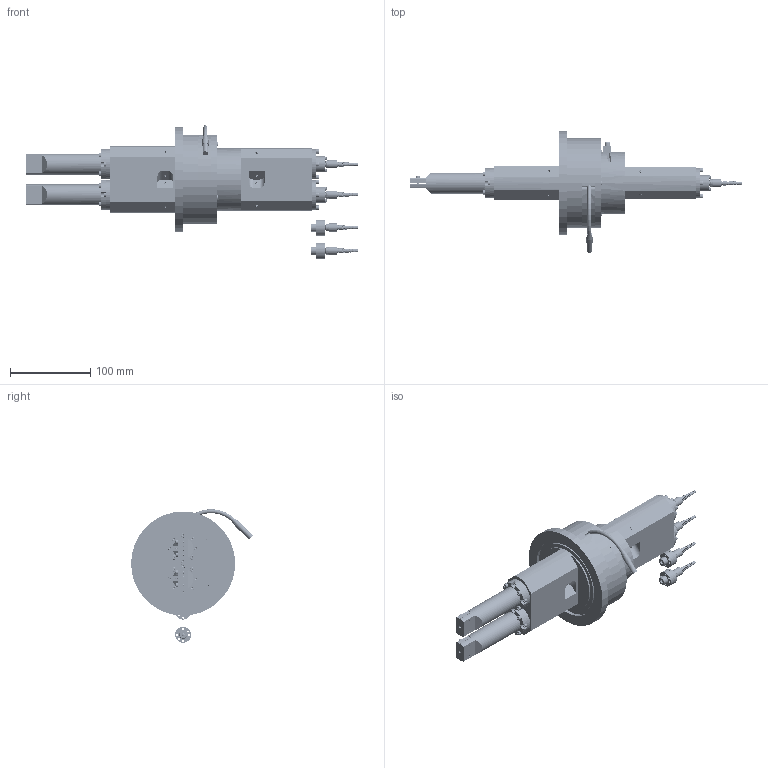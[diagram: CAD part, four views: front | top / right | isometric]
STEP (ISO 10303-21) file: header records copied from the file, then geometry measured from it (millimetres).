
FILE_DESCRIPTION (( 'STEP AP203' ), '1' );
FILE_NAME ('00.234.02-010.STEP', '2010-12-06T07:42:53', ( 'ladmin' ), ( '' ), 'SwSTEP 2.0', 'SolidWorks 2010', '' );
FILE_SCHEMA (( 'CONFIG_CONTROL_DESIGN' ));
Products named in the file (44): 00.234.02-010; 00.234.02-040_01; 00.234.02-030_01; 00.234.02-060_01; 00.234.02-050_01; 00.234.02-080_01; 00.234.02-900_01; 00.234.02-500_01; 00.234.02-510_01; 00.234.02-150_01; 00.234.02-090_01; D_1924_01; 00.234.02-110_01; 00.234.02-120_01; 00.234.02-070_01; D_2065_01; D_2066_01; D_2067_01; NS45B Dumb (STD)_01; 00.234.02-100_01; 00.234.02-520_01; 00.234.02-130_01; 00.234.02-140_01; 00.234.02-160_01; O-Ring 60x3.0_01; Zyl-Stift h6 BN 858_2 x 16; Lins-Schr I-6kt BN 1593_M 3 x 8; Zyl-Schr I-6kt BN 611_M 3 x 25; Zyl-Stift m6 BN 857_4 x 10; Zyl-Schr I-6kt BN 610_M 3 x 8; Zyl-Schr I-6kt BN 610_M 3 x 12; Zyl-Schr I-6kt BN 610_PreviewCfg; Zyl-Schr I-6kt BN 610_M 4 x 20; Zyl-Schr I-6kt BN 610_M 2 x 12; Zyl-Schr I-6kt BN 610_M 5 x 12; Zyl-Schr I-6kt BN 612_M 2,5 x 14; Zyl-Schr I-6kt BN 610_M 2,5 x 10; Gew Stift I-6kt Kegelk BN 617_M 3 x 10
Assembly tree (141 placements, depth 3):
  00.234.02-010
    00.234.02-050_01
    00.234.02-150_01  x2
    00.234.02-140_01  x2
    Zyl-Schr I-6kt BN 610_M 2,5 x 10  x8
    Zyl-Schr I-6kt BN 610_M 3 x 8  x7
    Zyl-Schr I-6kt BN 610_PreviewCfg  x25
    Zyl-Schr I-6kt BN 612_M 2,5 x 14  x8
    00.234.02-900_01  x6
      00.234.02-500_01
      00.234.02-510_01
    00.234.02-060_01
    00.234.02-100_01
    Gew Stift I-6kt Kegelk BN 617_M 3 x 10  x16
    Zyl-Stift h6 BN 858_2 x 16  x8
    Zyl-Schr I-6kt BN 610_M 3 x 12  x4
    Zyl-Schr I-6kt BN 610_M 5 x 12  x6
    00.234.02-030_01
    D_1924_01  x6
    00.234.02-090_01  x4
    Zyl-Stift m6 BN 857_4 x 10
    00.234.02-520_01  x2
    00.234.02-040_01
    00.234.02-080_01  x2
    Zyl-Schr I-6kt BN 611_M 3 x 25  x4
    00.234.02-060_01
    00.234.02-110_01
    00.234.02-130_01
    Zyl-Schr I-6kt BN 610_M 2 x 12  x3
    00.234.02-120_01
    D_2065_01
      D_2066_01
      D_2067_01
      NS45B Dumb (STD)_01
    O-Ring 60x3.0_01
    00.234.02-050_01
    00.234.02-060_01
    00.234.02-060_01
    00.234.02-070_01
    00.234.02-050_01
    Lins-Schr I-6kt BN 1593_M 3 x 8  x3
    00.234.02-160_01
    Zyl-Schr I-6kt BN 610_M 4 x 20
    00.234.02-050_01
Bounding box: 414.81 x 152.16 x 166.81 mm (x, y, z)
Volume: 967996.8 mm3; surface area: 356195.6 mm2
Topology: 145 solids, 145 shells, 4846 faces, 11508 edges, 7060 vertices
Faces by surface type: cylinder 2013, plane 1849, cone 610, torus 310, sphere 60, bspline 4
Entity records: 65471 total; most frequent: CARTESIAN_POINT 15235, DIRECTION 9533, ORIENTED_EDGE 8432, EDGE_CURVE 4216, AXIS2_PLACEMENT_3D 3830, VERTEX_POINT 2673, EDGE_LOOP 2249, CIRCLE 1952
